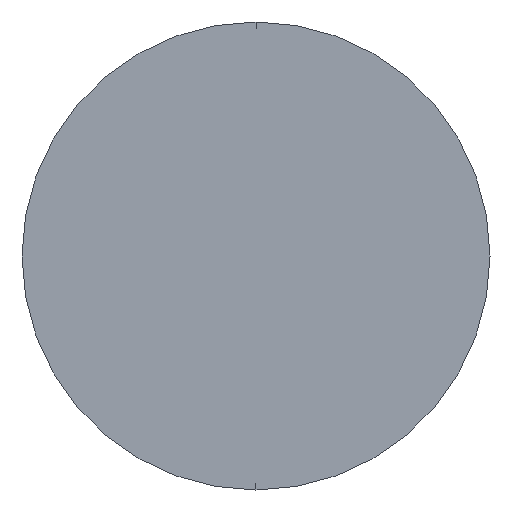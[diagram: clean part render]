
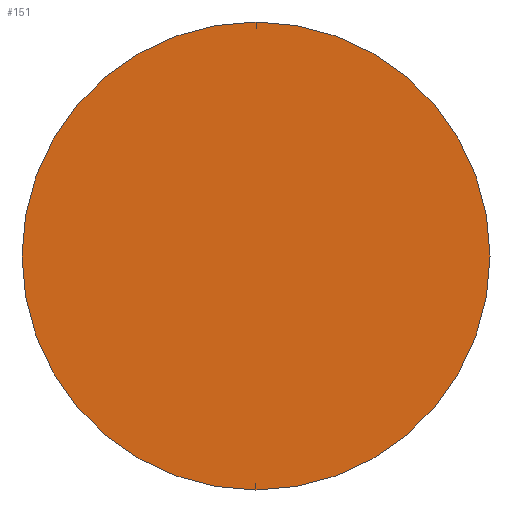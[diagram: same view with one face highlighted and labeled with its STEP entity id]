
A CAD part, left-side view. The second image highlights one B-rep face of the part: STEP entity #151.
In plain terms, the highlighted planar face has unit normal (-1, 0, 0).
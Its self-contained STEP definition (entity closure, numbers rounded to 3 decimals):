
#5 = EDGE_CURVE ( 'NONE', #236, #76, #144, .T. ) ;
#7 = EDGE_LOOP ( 'NONE', ( #284, #146 ) ) ;
#9 = CARTESIAN_POINT ( 'NONE',  ( 0., 0., -5.5 ) ) ;
#24 = EDGE_CURVE ( 'NONE', #76, #236, #178, .T. ) ;
#39 = CARTESIAN_POINT ( 'NONE',  ( 0., 0., 0. ) ) ;
#46 = CARTESIAN_POINT ( 'NONE',  ( 0., 0., 5.5 ) ) ;
#76 = VERTEX_POINT ( 'NONE', #9 ) ;
#130 = DIRECTION ( 'NONE',  ( 0., 0., -1. ) ) ;
#144 = CIRCLE ( 'NONE', #192, 5.5 ) ;
#146 = ORIENTED_EDGE ( 'NONE', *, *, #24, .T. ) ;
#149 = AXIS2_PLACEMENT_3D ( 'NONE', #39, #258, #130 ) ;
#151 = ADVANCED_FACE ( 'NONE', ( #152 ), #269, .F. ) ;
#152 = FACE_OUTER_BOUND ( 'NONE', #7, .T. ) ;
#169 = CARTESIAN_POINT ( 'NONE',  ( 0., 0., 0. ) ) ;
#178 = CIRCLE ( 'NONE', #231, 5.5 ) ;
#192 = AXIS2_PLACEMENT_3D ( 'NONE', #222, #255, #274 ) ;
#206 = DIRECTION ( 'NONE',  ( 0., 0., 1. ) ) ;
#222 = CARTESIAN_POINT ( 'NONE',  ( 0., 0., 0. ) ) ;
#231 = AXIS2_PLACEMENT_3D ( 'NONE', #169, #254, #206 ) ;
#236 = VERTEX_POINT ( 'NONE', #46 ) ;
#254 = DIRECTION ( 'NONE',  ( -1., 0., 0. ) ) ;
#255 = DIRECTION ( 'NONE',  ( -1., 0., 0. ) ) ;
#258 = DIRECTION ( 'NONE',  ( 1., 0., 0. ) ) ;
#269 = PLANE ( 'NONE',  #149 ) ;
#274 = DIRECTION ( 'NONE',  ( 0., 0., 1. ) ) ;
#284 = ORIENTED_EDGE ( 'NONE', *, *, #5, .T. ) ;
